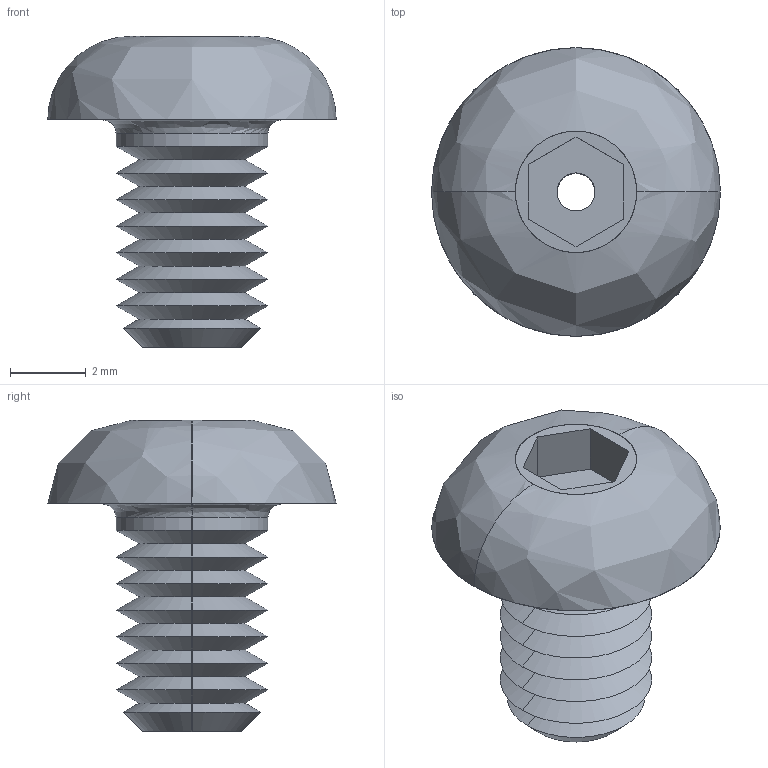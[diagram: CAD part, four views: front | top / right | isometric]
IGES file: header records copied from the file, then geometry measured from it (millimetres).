
Start section: SolidWorks IGES file using analytic representation for surfaces
Global section: file name: C:\Users\liam_\OneDrive\Documents\WORK\Work for WixRoyd\Job Files\J-00019 - Matt Davis CAD Checking\04. CAD Drawings\automotion20190605\P0094_v2\P0094_v2_20190712_IGES\P0094.040-006-A2.igs; native system: SolidWorks 2017; preprocessor: SolidWorks 2017; author: liam_; date: 190712.175203; units: millimetre
Bounding box: 7.6 x 7.6 x 8.2 mm (x, y, z)
Surface area: 258.5 mm2 (no closed solid volume)
Topology: 0 solids, 0 shells, 48 faces, 348 edges, 348 vertices
Faces by surface type: revolution 34, bspline 14
